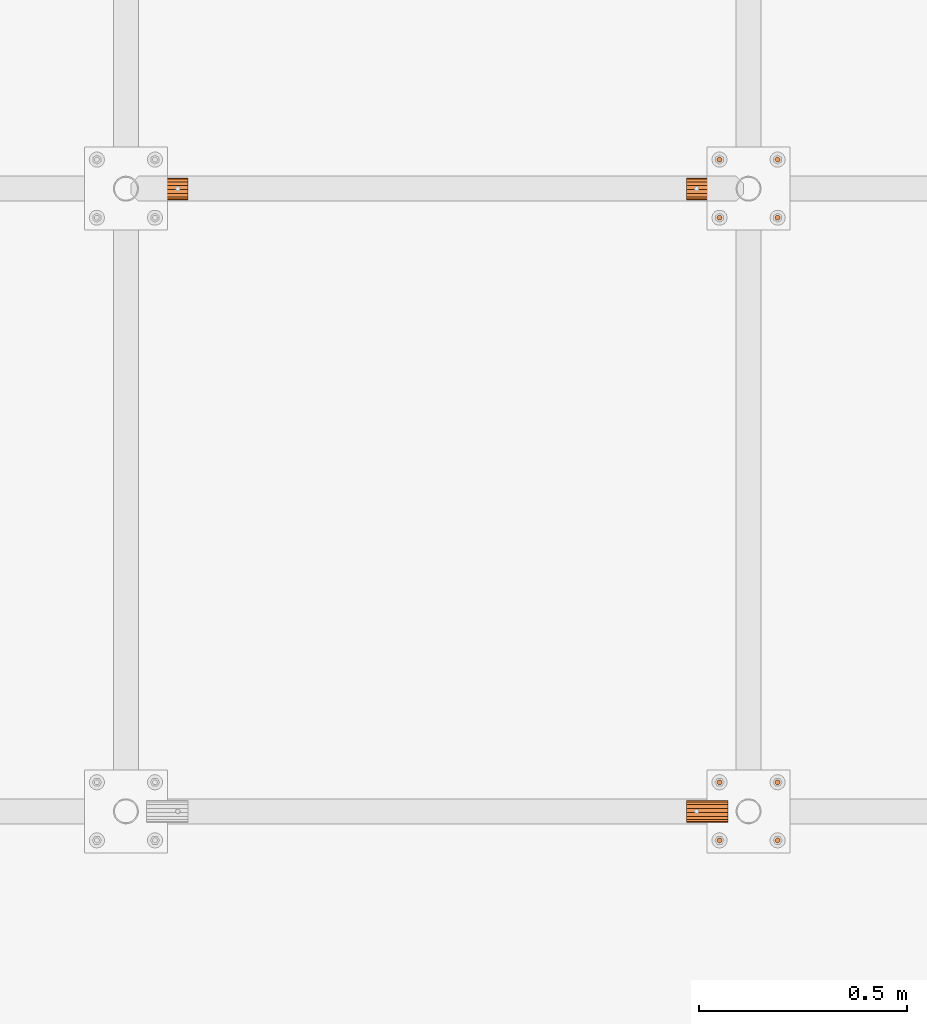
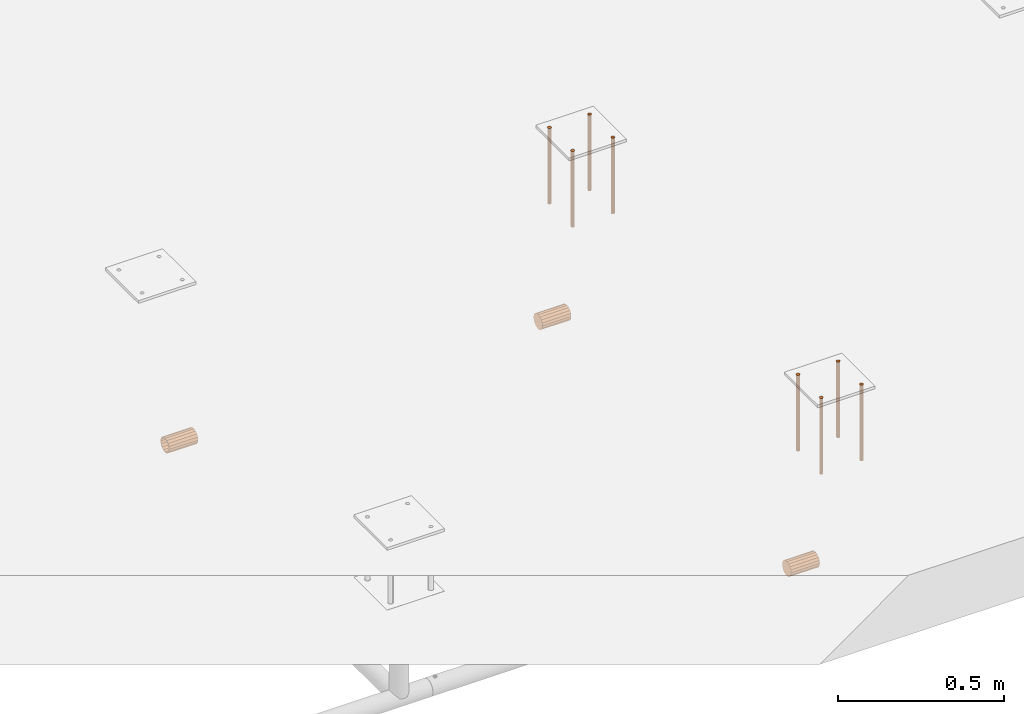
# One storey, part 14 of 30: 11 proxies.
"""IFC2X3 building model written with IfcOpenShell, lengths in millimetres."""

from ifc_helpers import new_model, entity, si_unit, converted_unit, origin_with_axes, place, context, project, spatial, faceted_brep, material, element, save


model = new_model("IFC2X3")

# Units and contexts
model_context = context("Model", 3, precision=1e-09, world=origin_with_axes())
ifc_project = project(units=[si_unit("LENGTHUNIT", "METRE", prefix="MILLI"), si_unit("AREAUNIT", "SQUARE_METRE"), si_unit("VOLUMEUNIT", "CUBIC_METRE"), converted_unit("PLANEANGLEUNIT", "DEGREE", entity("IfcPlaneAngleMeasure", 0.01745329), si_unit("PLANEANGLEUNIT", "RADIAN"), dimensions=[0, 0, 0, 0, 0, 0, 0])], contexts=[model_context])

# Site, building, storey
site_placement = place(None, origin_with_axes())
site = spatial("IfcSite", under=ifc_project, at=site_placement, Name="M?nsinger Stra?e, 81477 M?nchen", CompositionType="ELEMENT")
building_placement = place(site_placement, origin_with_axes())
building = spatial("IfcBuilding", under=site, at=building_placement, Name="Struktur 1", CompositionType="ELEMENT")
storey_placement = place(building_placement, origin_with_axes())
storey = spatial("IfcBuildingStorey", under=building, at=storey_placement, Name="Default Storey", CompositionType="ELEMENT", Elevation=0.0)

# Proxies
ifc_material_1 = material(Name="S235JR")
proxy_1_placement = place(None, origin_with_axes())
element("IfcBuildingElementProxy", 1, at=proxy_1_placement, inside=storey, material=ifc_material_1, ObjectType="-", context=model_context, shape_type="Brep", body=[
    faceted_brep([(4256.315117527, 1517.557789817, 6105.084700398), (4256.315117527, 1514.006567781, 6095.917939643), (4256.315117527, 1507.383735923, 6088.65303917), (4256.315117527, 1498.583744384, 6084.271164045), (4256.315117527, 1488.795080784, 6083.364110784), (4256.315117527, 1479.339758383, 6086.054381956), (4256.315117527, 1471.494770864, 6091.978641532), (4256.315117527, 1466.319627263, 6100.336785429), (4256.315117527, 1464.5132594, 6110.0), (4256.315117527, 1466.319627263, 6119.663214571), (4256.315117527, 1471.494770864, 6128.021358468), (4256.315117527, 1479.339758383, 6133.945618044), (4256.315117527, 1488.795080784, 6136.635889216), (4256.315117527, 1498.583744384, 6135.728835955), (4256.315117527, 1507.383735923, 6131.34696083), (4256.315117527, 1514.006567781, 6124.082060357), (4256.315117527, 1517.557789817, 6114.915299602), (4256.315117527, 1516.2632594, 6110.0), (4356.315117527, 1516.2632594, 6110.0), (4356.315117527, 1514.360247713, 6119.567085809), (4256.315117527, 1514.360247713, 6119.567085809), (4356.315117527, 1517.557789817, 6114.915299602), (4356.315117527, 1517.557789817, 6105.084700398), (4256.315117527, 1514.360247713, 6100.432914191), (4356.315117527, 1514.360247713, 6100.432914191), (4356.315117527, 1514.006567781, 6124.082060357), (4356.315117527, 1507.383735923, 6131.34696083), (4356.315117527, 1498.583744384, 6135.728835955), (4356.315117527, 1488.795080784, 6136.635889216), (4356.315117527, 1479.339758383, 6133.945618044), (4356.315117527, 1471.494770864, 6128.021358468), (4356.315117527, 1466.319627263, 6119.663214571), (4356.315117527, 1464.5132594, 6110.0), (4356.315117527, 1466.319627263, 6100.336785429), (4356.315117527, 1471.494770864, 6091.978641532), (4356.315117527, 1479.339758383, 6086.054381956), (4356.315117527, 1488.795080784, 6083.364110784), (4356.315117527, 1498.583744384, 6084.271164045), (4356.315117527, 1507.383735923, 6088.65303917), (4356.315117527, 1514.006567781, 6095.917939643), (4356.315117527, 1508.94092893, 6092.32233047), (4356.315117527, 1500.830345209, 6086.903011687), (4356.315117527, 1491.2632594, 6085.0), (4356.315117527, 1481.696173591, 6086.903011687), (4356.315117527, 1473.58558987, 6092.32233047), (4356.315117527, 1468.166271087, 6100.432914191), (4356.315117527, 1466.2632594, 6110.0), (4356.315117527, 1468.166271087, 6119.567085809), (4356.315117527, 1473.58558987, 6127.67766953), (4356.315117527, 1481.696173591, 6133.096988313), (4356.315117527, 1491.2632594, 6135.0), (4356.315117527, 1500.830345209, 6133.096988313), (4356.315117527, 1508.94092893, 6127.67766953), (4256.315117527, 1508.94092893, 6127.67766953), (4256.315117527, 1508.94092893, 6092.32233047), (4256.315117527, 1500.830345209, 6133.096988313), (4256.315117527, 1500.830345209, 6086.903011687), (4256.315117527, 1491.2632594, 6135.0), (4256.315117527, 1491.2632594, 6085.0), (4256.315117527, 1481.696173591, 6133.096988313), (4256.315117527, 1481.696173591, 6086.903011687), (4256.315117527, 1473.58558987, 6127.67766953), (4256.315117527, 1473.58558987, 6092.32233047), (4256.315117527, 1468.166271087, 6119.567085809), (4256.315117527, 1468.166271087, 6100.432914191), (4256.315117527, 1466.2632594, 6110.0)], [[[0, 1, 2, 3, 4, 5, 6, 7, 8, 9, 10, 11, 12, 13, 14, 15, 16]], [[17, 18, 19, 20]], [[0, 16, 21, 22]], [[18, 17, 23, 24]], [[22, 21, 25, 26, 27, 28, 29, 30, 31, 32, 33, 34, 35, 36, 37, 38, 39], [24, 40, 41, 42, 43, 44, 45, 46, 47, 48, 49, 50, 51, 52, 19, 18]], [[25, 21, 16, 15]], [[1, 0, 22, 39]], [[20, 19, 52, 53]], [[24, 23, 54, 40]], [[26, 25, 15, 14]], [[2, 1, 39, 38]], [[53, 52, 51, 55]], [[40, 54, 56, 41]], [[27, 26, 14, 13]], [[3, 2, 38, 37]], [[55, 51, 50, 57]], [[41, 56, 58, 42]], [[28, 27, 13, 12]], [[4, 3, 37, 36]], [[57, 50, 49, 59]], [[42, 58, 60, 43]], [[29, 28, 12, 11]], [[5, 4, 36, 35]], [[59, 49, 48, 61]], [[43, 60, 62, 44]], [[30, 29, 11, 10]], [[6, 5, 35, 34]], [[61, 48, 47, 63]], [[44, 62, 64, 45]], [[31, 30, 10, 9]], [[7, 6, 34, 33]], [[63, 47, 46, 65]], [[45, 64, 65, 46]], [[32, 31, 9, 8]], [[8, 7, 33, 32]]]),
])
proxy_2_placement = place(None, origin_with_axes())
element("IfcBuildingElementProxy", 2, at=proxy_2_placement, inside=storey, material=ifc_material_1, ObjectType="-", context=model_context, shape_type="Brep", body=[
    faceted_brep([(4256.315117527, 3017.557789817, 6105.084700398), (4256.315117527, 3014.006567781, 6095.917939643), (4256.315117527, 3007.383735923, 6088.65303917), (4256.315117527, 2998.583744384, 6084.271164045), (4256.315117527, 2988.795080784, 6083.364110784), (4256.315117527, 2979.339758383, 6086.054381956), (4256.315117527, 2971.494770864, 6091.978641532), (4256.315117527, 2966.319627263, 6100.336785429), (4256.315117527, 2964.5132594, 6110.0), (4256.315117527, 2966.319627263, 6119.663214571), (4256.315117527, 2971.494770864, 6128.021358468), (4256.315117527, 2979.339758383, 6133.945618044), (4256.315117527, 2988.795080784, 6136.635889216), (4256.315117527, 2998.583744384, 6135.728835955), (4256.315117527, 3007.383735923, 6131.34696083), (4256.315117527, 3014.006567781, 6124.082060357), (4256.315117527, 3017.557789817, 6114.915299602), (4256.315117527, 3016.2632594, 6110.0), (4356.315117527, 3016.2632594, 6110.0), (4356.315117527, 3014.360247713, 6119.567085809), (4256.315117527, 3014.360247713, 6119.567085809), (4356.315117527, 3017.557789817, 6114.915299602), (4356.315117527, 3017.557789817, 6105.084700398), (4256.315117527, 3014.360247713, 6100.432914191), (4356.315117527, 3014.360247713, 6100.432914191), (4356.315117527, 3014.006567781, 6124.082060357), (4356.315117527, 3007.383735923, 6131.34696083), (4356.315117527, 2998.583744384, 6135.728835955), (4356.315117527, 2988.795080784, 6136.635889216), (4356.315117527, 2979.339758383, 6133.945618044), (4356.315117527, 2971.494770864, 6128.021358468), (4356.315117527, 2966.319627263, 6119.663214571), (4356.315117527, 2964.5132594, 6110.0), (4356.315117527, 2966.319627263, 6100.336785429), (4356.315117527, 2971.494770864, 6091.978641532), (4356.315117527, 2979.339758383, 6086.054381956), (4356.315117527, 2988.795080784, 6083.364110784), (4356.315117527, 2998.583744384, 6084.271164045), (4356.315117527, 3007.383735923, 6088.65303917), (4356.315117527, 3014.006567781, 6095.917939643), (4356.315117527, 3008.94092893, 6092.32233047), (4356.315117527, 3000.830345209, 6086.903011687), (4356.315117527, 2991.2632594, 6085.0), (4356.315117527, 2981.696173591, 6086.903011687), (4356.315117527, 2973.58558987, 6092.32233047), (4356.315117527, 2968.166271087, 6100.432914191), (4356.315117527, 2966.2632594, 6110.0), (4356.315117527, 2968.166271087, 6119.567085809), (4356.315117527, 2973.58558987, 6127.67766953), (4356.315117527, 2981.696173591, 6133.096988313), (4356.315117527, 2991.2632594, 6135.0), (4356.315117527, 3000.830345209, 6133.096988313), (4356.315117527, 3008.94092893, 6127.67766953), (4256.315117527, 3008.94092893, 6127.67766953), (4256.315117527, 3008.94092893, 6092.32233047), (4256.315117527, 3000.830345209, 6133.096988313), (4256.315117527, 3000.830345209, 6086.903011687), (4256.315117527, 2991.2632594, 6135.0), (4256.315117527, 2991.2632594, 6085.0), (4256.315117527, 2981.696173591, 6133.096988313), (4256.315117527, 2981.696173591, 6086.903011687), (4256.315117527, 2973.58558987, 6127.67766953), (4256.315117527, 2973.58558987, 6092.32233047), (4256.315117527, 2968.166271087, 6119.567085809), (4256.315117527, 2968.166271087, 6100.432914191), (4256.315117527, 2966.2632594, 6110.0)], [[[0, 1, 2, 3, 4, 5, 6, 7, 8, 9, 10, 11, 12, 13, 14, 15, 16]], [[17, 18, 19, 20]], [[0, 16, 21, 22]], [[18, 17, 23, 24]], [[22, 21, 25, 26, 27, 28, 29, 30, 31, 32, 33, 34, 35, 36, 37, 38, 39], [24, 40, 41, 42, 43, 44, 45, 46, 47, 48, 49, 50, 51, 52, 19, 18]], [[25, 21, 16, 15]], [[1, 0, 22, 39]], [[20, 19, 52, 53]], [[24, 23, 54, 40]], [[26, 25, 15, 14]], [[2, 1, 39, 38]], [[53, 52, 51, 55]], [[40, 54, 56, 41]], [[27, 26, 14, 13]], [[3, 2, 38, 37]], [[55, 51, 50, 57]], [[41, 56, 58, 42]], [[28, 27, 13, 12]], [[4, 3, 37, 36]], [[57, 50, 49, 59]], [[42, 58, 60, 43]], [[29, 28, 12, 11]], [[5, 4, 36, 35]], [[59, 49, 48, 61]], [[43, 60, 62, 44]], [[30, 29, 11, 10]], [[6, 5, 35, 34]], [[61, 48, 47, 63]], [[44, 62, 64, 45]], [[31, 30, 10, 9]], [[7, 6, 34, 33]], [[63, 47, 46, 65]], [[45, 64, 65, 46]], [[32, 31, 9, 8]], [[8, 7, 33, 32]]]),
])
proxy_3_placement = place(None, origin_with_axes())
element("IfcBuildingElementProxy", 3, at=proxy_3_placement, inside=storey, material=ifc_material_1, ObjectType="-", context=model_context, shape_type="Brep", body=[
    faceted_brep([(3056.315117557, 3014.006567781, 6095.917939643), (3056.315117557, 3017.557789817, 6105.084700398), (3056.315117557, 3017.557789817, 6114.915299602), (3056.315117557, 3014.006567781, 6124.082060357), (3056.315117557, 3007.383735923, 6131.34696083), (3056.315117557, 2998.583744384, 6135.728835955), (3056.315117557, 2988.795080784, 6136.635889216), (3056.315117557, 2979.339758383, 6133.945618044), (3056.315117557, 2971.494770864, 6128.021358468), (3056.315117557, 2966.319627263, 6119.663214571), (3056.315117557, 2964.5132594, 6110.0), (3056.315117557, 2966.319627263, 6100.336785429), (3056.315117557, 2971.494770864, 6091.978641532), (3056.315117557, 2979.339758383, 6086.054381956), (3056.315117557, 2988.795080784, 6083.364110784), (3056.315117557, 2998.583744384, 6084.271164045), (3056.315117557, 3007.383735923, 6088.65303917), (3056.315117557, 3016.2632594, 6110.0), (3056.315117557, 3014.360247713, 6100.432914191), (3056.315117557, 3008.94092893, 6092.32233047), (3056.315117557, 3000.830345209, 6086.903011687), (3056.315117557, 2991.2632594, 6085.0), (3056.315117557, 2981.696173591, 6086.903011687), (3056.315117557, 2973.58558987, 6092.32233047), (3056.315117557, 2968.166271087, 6100.432914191), (3056.315117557, 2966.2632594, 6110.0), (3056.315117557, 2968.166271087, 6119.567085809), (3056.315117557, 2973.58558987, 6127.67766953), (3056.315117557, 2981.696173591, 6133.096988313), (3056.315117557, 2991.2632594, 6135.0), (3056.315117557, 3000.830345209, 6133.096988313), (3056.315117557, 3008.94092893, 6127.67766953), (3056.315117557, 3014.360247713, 6119.567085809), (2956.315117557, 3016.2632594, 6110.0), (2956.315117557, 3014.360247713, 6119.567085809), (2956.315117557, 3017.557789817, 6105.084700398), (2956.315117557, 3017.557789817, 6114.915299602), (2956.315117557, 3014.360247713, 6100.432914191), (2956.315117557, 3014.006567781, 6095.917939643), (2956.315117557, 3007.383735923, 6088.65303917), (2956.315117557, 2998.583744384, 6084.271164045), (2956.315117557, 2988.795080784, 6083.364110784), (2956.315117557, 2979.339758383, 6086.054381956), (2956.315117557, 2971.494770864, 6091.978641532), (2956.315117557, 2966.319627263, 6100.336785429), (2956.315117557, 2964.5132594, 6110.0), (2956.315117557, 2966.319627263, 6119.663214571), (2956.315117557, 2971.494770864, 6128.021358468), (2956.315117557, 2979.339758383, 6133.945618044), (2956.315117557, 2988.795080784, 6136.635889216), (2956.315117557, 2998.583744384, 6135.728835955), (2956.315117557, 3007.383735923, 6131.34696083), (2956.315117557, 3014.006567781, 6124.082060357), (2956.315117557, 3008.94092893, 6092.32233047), (2956.315117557, 3008.94092893, 6127.67766953), (2956.315117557, 3000.830345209, 6133.096988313), (2956.315117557, 2991.2632594, 6135.0), (2956.315117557, 2981.696173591, 6133.096988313), (2956.315117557, 2973.58558987, 6127.67766953), (2956.315117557, 2968.166271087, 6119.567085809), (2956.315117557, 2966.2632594, 6110.0), (2956.315117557, 2968.166271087, 6100.432914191), (2956.315117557, 2973.58558987, 6092.32233047), (2956.315117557, 2981.696173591, 6086.903011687), (2956.315117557, 2991.2632594, 6085.0), (2956.315117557, 3000.830345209, 6086.903011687)], [[[0, 1, 2, 3, 4, 5, 6, 7, 8, 9, 10, 11, 12, 13, 14, 15, 16], [17, 18, 19, 20, 21, 22, 23, 24, 25, 26, 27, 28, 29, 30, 31, 32]], [[33, 17, 32, 34]], [[2, 1, 35, 36]], [[17, 33, 37, 18]], [[35, 38, 39, 40, 41, 42, 43, 44, 45, 46, 47, 48, 49, 50, 51, 52, 36], [53, 37, 33, 34, 54, 55, 56, 57, 58, 59, 60, 61, 62, 63, 64, 65]], [[36, 52, 3, 2]], [[1, 0, 38, 35]], [[34, 32, 31, 54]], [[18, 37, 53, 19]], [[52, 51, 4, 3]], [[0, 16, 39, 38]], [[54, 31, 30, 55]], [[19, 53, 65, 20]], [[51, 50, 5, 4]], [[16, 15, 40, 39]], [[55, 30, 29, 56]], [[20, 65, 64, 21]], [[50, 49, 6, 5]], [[15, 14, 41, 40]], [[56, 29, 28, 57]], [[21, 64, 63, 22]], [[49, 48, 7, 6]], [[14, 13, 42, 41]], [[57, 28, 27, 58]], [[22, 63, 62, 23]], [[48, 47, 8, 7]], [[13, 12, 43, 42]], [[58, 27, 26, 59]], [[23, 62, 61, 24]], [[47, 46, 9, 8]], [[12, 11, 44, 43]], [[59, 26, 25, 60]], [[24, 61, 60, 25]], [[46, 45, 10, 9]], [[11, 10, 45, 44]]]),
])
ifc_material_2 = material(Name="Kein")
proxy_4_placement = place(None, origin_with_axes())
element("IfcBuildingElementProxy", 4, at=proxy_4_placement, inside=storey, material=ifc_material_2, ObjectType="-", context=model_context, shape_type="Brep", body=[
    faceted_brep([(4336.315117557, 3055.2632594, 6755.0), (4336.315117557, 3055.2632594, 6475.0), (4339.315117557, 3056.067106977, 6475.0), (4339.315117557, 3056.067106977, 6755.0), (4333.315117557, 3056.067106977, 6755.0), (4333.315117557, 3056.067106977, 6475.0), (4331.118965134, 3064.2632594, 6475.0), (4333.315117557, 3066.459411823, 6475.0), (4336.315117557, 3067.2632594, 6475.0), (4339.315117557, 3066.459411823, 6475.0), (4341.51126998, 3064.2632594, 6475.0), (4342.315117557, 3061.2632594, 6475.0), (4341.51126998, 3058.2632594, 6475.0), (4331.118965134, 3058.2632594, 6475.0), (4330.315117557, 3061.2632594, 6475.0), (4341.51126998, 3064.2632594, 6755.0), (4339.315117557, 3066.459411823, 6755.0), (4336.315117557, 3067.2632594, 6755.0), (4333.315117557, 3066.459411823, 6755.0), (4331.118965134, 3064.2632594, 6755.0), (4330.315117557, 3061.2632594, 6755.0), (4331.118965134, 3058.2632594, 6755.0), (4341.51126998, 3058.2632594, 6755.0), (4342.315117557, 3061.2632594, 6755.0)], [[[0, 1, 2, 3]], [[1, 0, 4, 5]], [[6, 7, 8, 9, 10, 11, 12, 2, 1, 5, 13, 14]], [[15, 16, 17, 18, 19, 20, 21, 4, 0, 3, 22, 23]], [[3, 2, 12, 22]], [[5, 4, 21, 13]], [[11, 23, 22, 12]], [[10, 15, 23, 11]], [[13, 21, 20, 14]], [[16, 9, 8, 17]], [[15, 10, 9, 16]], [[17, 8, 7, 18]], [[14, 20, 19, 6]], [[18, 7, 6, 19]]]),
])
proxy_5_placement = place(None, origin_with_axes())
element("IfcBuildingElementProxy", 5, at=proxy_5_placement, inside=storey, material=ifc_material_2, ObjectType="-", context=model_context, shape_type="Brep", body=[
    faceted_brep([(4476.315117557, 3055.2632594, 6755.0), (4476.315117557, 3055.2632594, 6475.0), (4479.315117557, 3056.067106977, 6475.0), (4479.315117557, 3056.067106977, 6755.0), (4473.315117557, 3056.067106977, 6755.0), (4473.315117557, 3056.067106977, 6475.0), (4471.118965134, 3064.2632594, 6475.0), (4473.315117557, 3066.459411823, 6475.0), (4476.315117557, 3067.2632594, 6475.0), (4479.315117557, 3066.459411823, 6475.0), (4481.51126998, 3064.2632594, 6475.0), (4482.315117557, 3061.2632594, 6475.0), (4481.51126998, 3058.2632594, 6475.0), (4471.118965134, 3058.2632594, 6475.0), (4470.315117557, 3061.2632594, 6475.0), (4481.51126998, 3064.2632594, 6755.0), (4479.315117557, 3066.459411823, 6755.0), (4476.315117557, 3067.2632594, 6755.0), (4473.315117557, 3066.459411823, 6755.0), (4471.118965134, 3064.2632594, 6755.0), (4470.315117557, 3061.2632594, 6755.0), (4471.118965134, 3058.2632594, 6755.0), (4481.51126998, 3058.2632594, 6755.0), (4482.315117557, 3061.2632594, 6755.0)], [[[0, 1, 2, 3]], [[1, 0, 4, 5]], [[6, 7, 8, 9, 10, 11, 12, 2, 1, 5, 13, 14]], [[15, 16, 17, 18, 19, 20, 21, 4, 0, 3, 22, 23]], [[3, 2, 12, 22]], [[5, 4, 21, 13]], [[11, 23, 22, 12]], [[10, 15, 23, 11]], [[13, 21, 20, 14]], [[16, 9, 8, 17]], [[15, 10, 9, 16]], [[17, 8, 7, 18]], [[14, 20, 19, 6]], [[18, 7, 6, 19]]]),
])
proxy_6_placement = place(None, origin_with_axes())
element("IfcBuildingElementProxy", 6, at=proxy_6_placement, inside=storey, material=ifc_material_2, ObjectType="-", context=model_context, shape_type="Brep", body=[
    faceted_brep([(4336.315117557, 2915.2632594, 6755.0), (4336.315117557, 2915.2632594, 6475.0), (4339.315117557, 2916.067106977, 6475.0), (4339.315117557, 2916.067106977, 6755.0), (4333.315117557, 2916.067106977, 6755.0), (4333.315117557, 2916.067106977, 6475.0), (4331.118965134, 2924.2632594, 6475.0), (4333.315117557, 2926.459411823, 6475.0), (4336.315117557, 2927.2632594, 6475.0), (4339.315117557, 2926.459411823, 6475.0), (4341.51126998, 2924.2632594, 6475.0), (4342.315117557, 2921.2632594, 6475.0), (4341.51126998, 2918.2632594, 6475.0), (4331.118965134, 2918.2632594, 6475.0), (4330.315117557, 2921.2632594, 6475.0), (4341.51126998, 2924.2632594, 6755.0), (4339.315117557, 2926.459411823, 6755.0), (4336.315117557, 2927.2632594, 6755.0), (4333.315117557, 2926.459411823, 6755.0), (4331.118965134, 2924.2632594, 6755.0), (4330.315117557, 2921.2632594, 6755.0), (4331.118965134, 2918.2632594, 6755.0), (4341.51126998, 2918.2632594, 6755.0), (4342.315117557, 2921.2632594, 6755.0)], [[[0, 1, 2, 3]], [[1, 0, 4, 5]], [[6, 7, 8, 9, 10, 11, 12, 2, 1, 5, 13, 14]], [[15, 16, 17, 18, 19, 20, 21, 4, 0, 3, 22, 23]], [[3, 2, 12, 22]], [[5, 4, 21, 13]], [[11, 23, 22, 12]], [[10, 15, 23, 11]], [[13, 21, 20, 14]], [[16, 9, 8, 17]], [[15, 10, 9, 16]], [[17, 8, 7, 18]], [[14, 20, 19, 6]], [[18, 7, 6, 19]]]),
])
proxy_7_placement = place(None, origin_with_axes())
element("IfcBuildingElementProxy", 7, at=proxy_7_placement, inside=storey, material=ifc_material_2, ObjectType="-", context=model_context, shape_type="Brep", body=[
    faceted_brep([(4476.315117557, 2915.2632594, 6755.0), (4476.315117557, 2915.2632594, 6475.0), (4479.315117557, 2916.067106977, 6475.0), (4479.315117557, 2916.067106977, 6755.0), (4473.315117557, 2916.067106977, 6755.0), (4473.315117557, 2916.067106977, 6475.0), (4471.118965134, 2924.2632594, 6475.0), (4473.315117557, 2926.459411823, 6475.0), (4476.315117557, 2927.2632594, 6475.0), (4479.315117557, 2926.459411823, 6475.0), (4481.51126998, 2924.2632594, 6475.0), (4482.315117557, 2921.2632594, 6475.0), (4481.51126998, 2918.2632594, 6475.0), (4471.118965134, 2918.2632594, 6475.0), (4470.315117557, 2921.2632594, 6475.0), (4481.51126998, 2924.2632594, 6755.0), (4479.315117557, 2926.459411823, 6755.0), (4476.315117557, 2927.2632594, 6755.0), (4473.315117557, 2926.459411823, 6755.0), (4471.118965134, 2924.2632594, 6755.0), (4470.315117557, 2921.2632594, 6755.0), (4471.118965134, 2918.2632594, 6755.0), (4481.51126998, 2918.2632594, 6755.0), (4482.315117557, 2921.2632594, 6755.0)], [[[0, 1, 2, 3]], [[1, 0, 4, 5]], [[6, 7, 8, 9, 10, 11, 12, 2, 1, 5, 13, 14]], [[15, 16, 17, 18, 19, 20, 21, 4, 0, 3, 22, 23]], [[3, 2, 12, 22]], [[5, 4, 21, 13]], [[11, 23, 22, 12]], [[10, 15, 23, 11]], [[13, 21, 20, 14]], [[16, 9, 8, 17]], [[15, 10, 9, 16]], [[17, 8, 7, 18]], [[14, 20, 19, 6]], [[18, 7, 6, 19]]]),
])
proxy_8_placement = place(None, origin_with_axes())
element("IfcBuildingElementProxy", 8, at=proxy_8_placement, inside=storey, material=ifc_material_2, ObjectType="-", context=model_context, shape_type="Brep", body=[
    faceted_brep([(4482.315117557, 1561.2632594, 6475.0), (4482.315117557, 1561.2632594, 6755.0), (4481.51126998, 1558.2632594, 6755.0), (4481.51126998, 1558.2632594, 6475.0), (4481.51126998, 1564.2632594, 6475.0), (4481.51126998, 1564.2632594, 6755.0), (4471.118965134, 1564.2632594, 6475.0), (4473.315117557, 1566.459411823, 6475.0), (4476.315117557, 1567.2632594, 6475.0), (4479.315117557, 1566.459411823, 6475.0), (4479.315117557, 1556.067106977, 6475.0), (4476.315117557, 1555.2632594, 6475.0), (4473.315117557, 1556.067106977, 6475.0), (4471.118965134, 1558.2632594, 6475.0), (4470.315117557, 1561.2632594, 6475.0), (4471.118965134, 1558.2632594, 6755.0), (4473.315117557, 1556.067106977, 6755.0), (4476.315117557, 1555.2632594, 6755.0), (4479.315117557, 1556.067106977, 6755.0), (4479.315117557, 1566.459411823, 6755.0), (4476.315117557, 1567.2632594, 6755.0), (4473.315117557, 1566.459411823, 6755.0), (4471.118965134, 1564.2632594, 6755.0), (4470.315117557, 1561.2632594, 6755.0)], [[[0, 1, 2, 3]], [[1, 0, 4, 5]], [[6, 7, 8, 9, 4, 0, 3, 10, 11, 12, 13, 14]], [[15, 16, 17, 18, 2, 1, 5, 19, 20, 21, 22, 23]], [[3, 2, 18, 10]], [[5, 4, 9, 19]], [[17, 11, 10, 18]], [[16, 12, 11, 17]], [[19, 9, 8, 20]], [[13, 15, 23, 14]], [[12, 16, 15, 13]], [[14, 23, 22, 6]], [[20, 8, 7, 21]], [[6, 22, 21, 7]]]),
])
proxy_9_placement = place(None, origin_with_axes())
element("IfcBuildingElementProxy", 9, at=proxy_9_placement, inside=storey, material=ifc_material_2, ObjectType="-", context=model_context, shape_type="Brep", body=[
    faceted_brep([(4482.315117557, 1421.2632594, 6475.0), (4482.315117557, 1421.2632594, 6755.0), (4481.51126998, 1418.2632594, 6755.0), (4481.51126998, 1418.2632594, 6475.0), (4481.51126998, 1424.2632594, 6475.0), (4481.51126998, 1424.2632594, 6755.0), (4471.118965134, 1424.2632594, 6475.0), (4473.315117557, 1426.459411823, 6475.0), (4476.315117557, 1427.2632594, 6475.0), (4479.315117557, 1426.459411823, 6475.0), (4479.315117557, 1416.067106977, 6475.0), (4476.315117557, 1415.2632594, 6475.0), (4473.315117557, 1416.067106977, 6475.0), (4471.118965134, 1418.2632594, 6475.0), (4470.315117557, 1421.2632594, 6475.0), (4471.118965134, 1418.2632594, 6755.0), (4473.315117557, 1416.067106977, 6755.0), (4476.315117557, 1415.2632594, 6755.0), (4479.315117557, 1416.067106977, 6755.0), (4479.315117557, 1426.459411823, 6755.0), (4476.315117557, 1427.2632594, 6755.0), (4473.315117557, 1426.459411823, 6755.0), (4471.118965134, 1424.2632594, 6755.0), (4470.315117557, 1421.2632594, 6755.0)], [[[0, 1, 2, 3]], [[1, 0, 4, 5]], [[6, 7, 8, 9, 4, 0, 3, 10, 11, 12, 13, 14]], [[15, 16, 17, 18, 2, 1, 5, 19, 20, 21, 22, 23]], [[3, 2, 18, 10]], [[5, 4, 9, 19]], [[17, 11, 10, 18]], [[16, 12, 11, 17]], [[19, 9, 8, 20]], [[13, 15, 23, 14]], [[12, 16, 15, 13]], [[14, 23, 22, 6]], [[20, 8, 7, 21]], [[6, 22, 21, 7]]]),
])
proxy_10_placement = place(None, origin_with_axes())
element("IfcBuildingElementProxy", 10, at=proxy_10_placement, inside=storey, material=ifc_material_2, ObjectType="-", context=model_context, shape_type="Brep", body=[
    faceted_brep([(4342.315117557, 1561.2632594, 6475.0), (4342.315117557, 1561.2632594, 6755.0), (4341.51126998, 1558.2632594, 6755.0), (4341.51126998, 1558.2632594, 6475.0), (4341.51126998, 1564.2632594, 6475.0), (4341.51126998, 1564.2632594, 6755.0), (4331.118965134, 1564.2632594, 6475.0), (4333.315117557, 1566.459411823, 6475.0), (4336.315117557, 1567.2632594, 6475.0), (4339.315117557, 1566.459411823, 6475.0), (4339.315117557, 1556.067106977, 6475.0), (4336.315117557, 1555.2632594, 6475.0), (4333.315117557, 1556.067106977, 6475.0), (4331.118965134, 1558.2632594, 6475.0), (4330.315117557, 1561.2632594, 6475.0), (4331.118965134, 1558.2632594, 6755.0), (4333.315117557, 1556.067106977, 6755.0), (4336.315117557, 1555.2632594, 6755.0), (4339.315117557, 1556.067106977, 6755.0), (4339.315117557, 1566.459411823, 6755.0), (4336.315117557, 1567.2632594, 6755.0), (4333.315117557, 1566.459411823, 6755.0), (4331.118965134, 1564.2632594, 6755.0), (4330.315117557, 1561.2632594, 6755.0)], [[[0, 1, 2, 3]], [[1, 0, 4, 5]], [[6, 7, 8, 9, 4, 0, 3, 10, 11, 12, 13, 14]], [[15, 16, 17, 18, 2, 1, 5, 19, 20, 21, 22, 23]], [[3, 2, 18, 10]], [[5, 4, 9, 19]], [[17, 11, 10, 18]], [[16, 12, 11, 17]], [[19, 9, 8, 20]], [[13, 15, 23, 14]], [[12, 16, 15, 13]], [[14, 23, 22, 6]], [[20, 8, 7, 21]], [[6, 22, 21, 7]]]),
])
proxy_11_placement = place(None, origin_with_axes())
element("IfcBuildingElementProxy", 11, at=proxy_11_placement, inside=storey, material=ifc_material_2, ObjectType="-", context=model_context, shape_type="Brep", body=[
    faceted_brep([(4342.315117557, 1421.2632594, 6475.0), (4342.315117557, 1421.2632594, 6755.0), (4341.51126998, 1418.2632594, 6755.0), (4341.51126998, 1418.2632594, 6475.0), (4341.51126998, 1424.2632594, 6475.0), (4341.51126998, 1424.2632594, 6755.0), (4331.118965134, 1424.2632594, 6475.0), (4333.315117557, 1426.459411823, 6475.0), (4336.315117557, 1427.2632594, 6475.0), (4339.315117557, 1426.459411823, 6475.0), (4339.315117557, 1416.067106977, 6475.0), (4336.315117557, 1415.2632594, 6475.0), (4333.315117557, 1416.067106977, 6475.0), (4331.118965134, 1418.2632594, 6475.0), (4330.315117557, 1421.2632594, 6475.0), (4331.118965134, 1418.2632594, 6755.0), (4333.315117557, 1416.067106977, 6755.0), (4336.315117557, 1415.2632594, 6755.0), (4339.315117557, 1416.067106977, 6755.0), (4339.315117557, 1426.459411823, 6755.0), (4336.315117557, 1427.2632594, 6755.0), (4333.315117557, 1426.459411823, 6755.0), (4331.118965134, 1424.2632594, 6755.0), (4330.315117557, 1421.2632594, 6755.0)], [[[0, 1, 2, 3]], [[1, 0, 4, 5]], [[6, 7, 8, 9, 4, 0, 3, 10, 11, 12, 13, 14]], [[15, 16, 17, 18, 2, 1, 5, 19, 20, 21, 22, 23]], [[3, 2, 18, 10]], [[5, 4, 9, 19]], [[17, 11, 10, 18]], [[16, 12, 11, 17]], [[19, 9, 8, 20]], [[13, 15, 23, 14]], [[12, 16, 15, 13]], [[14, 23, 22, 6]], [[20, 8, 7, 21]], [[6, 22, 21, 7]]]),
])

save(model, "model.ifc")
